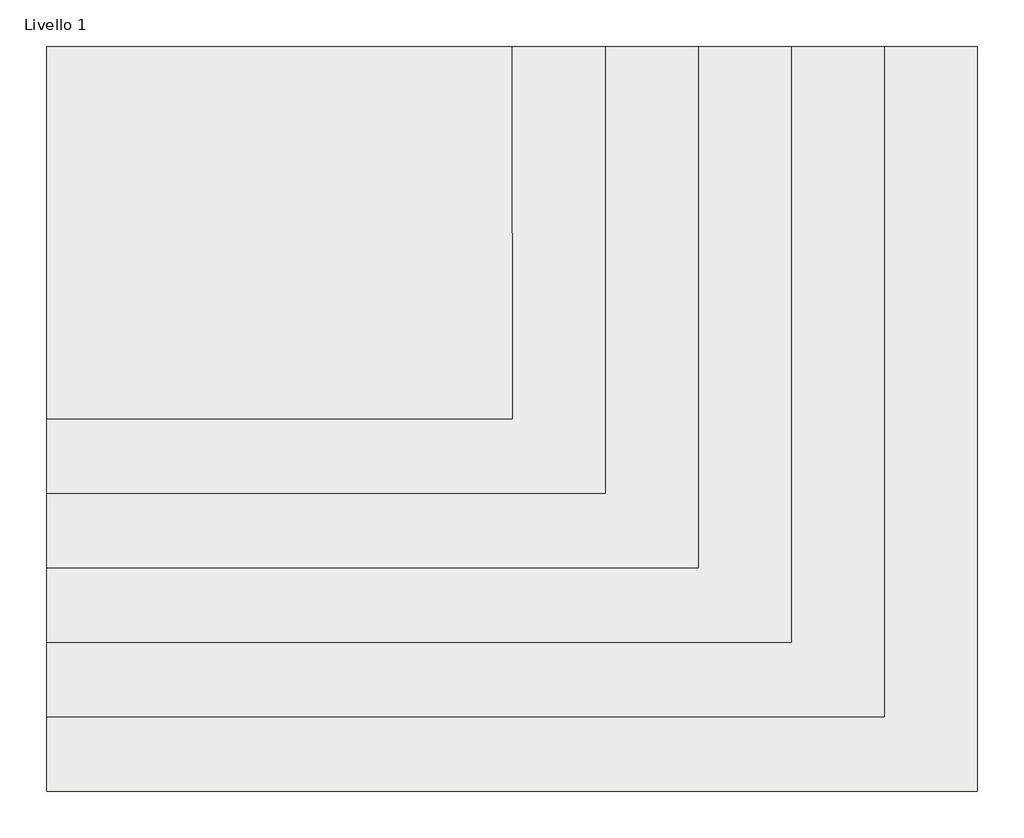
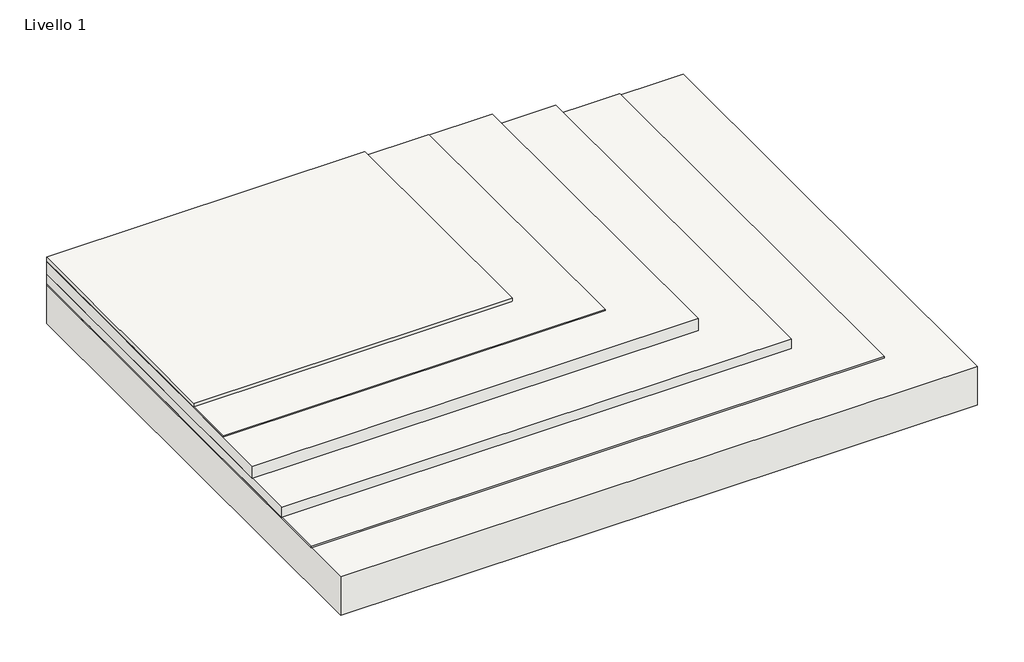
# One storey: 1 slab.
"""IFC4 building model written with IfcOpenShell, lengths in millimetres."""

from ifc_helpers import new_model, si_unit, frame, origin, place, context, project, spatial, polyline, outline, extrude, element, save

model = new_model("IFC4")

# Units and contexts
model_context = context("Model", 3, world=origin())
ifc_project = project(units=[si_unit("LENGTHUNIT", "METRE", prefix="MILLI")], contexts=[model_context])

# Site, building, storey
site = spatial("IfcSite", under=ifc_project)
building = spatial("IfcBuilding", under=site)
storey = spatial("IfcBuildingStorey", under=building, Name="Livello 1", Elevation=0.0)

# Slab
placement = place(None, origin())
element("IfcSlab", 1, ObjectType="MAPEI - Sistema para o assentamento de madeira sobre betonilha radiante", at=placement, inside=storey, context=model_context, shape_type="SweptSolid", body=[
    extrude(outline(polyline([(1457.7963918, 1184.9122843), (207.7963918, 1184.9122843), (207.7963918, 2184.9122843), (1457.7963918, 2184.9122843), (1457.7963918, 1184.9122843)])), frame((0.0, 0.0, -15.0), z_axis=(0.0, 0.0, 1.0), x_axis=(1.0, 0.0, 0.0)), (0.0, 0.0, 1.0), 15.0),
    extrude(outline(polyline([(1707.7963918, 984.9122843), (207.7963918, 984.9122843), (207.7963918, 2184.9122843), (1707.7963918, 2184.9122843), (1707.7963918, 984.9122843)])), frame((0.0, 0.0, -19.0), z_axis=(0.0, 0.0, 1.0), x_axis=(1.0, 0.0, 0.0)), (0.0, 0.0, 1.0), 4.0),
    extrude(outline(polyline([(1957.7963918, 784.9122843), (207.7963918, 784.9122843), (207.7963918, 2184.9122843), (1957.7963918, 2184.9122843), (1957.7963918, 784.9122843)])), frame((0.0, 0.0, -69.0), z_axis=(0.0, 0.0, 1.0), x_axis=(1.0, 0.0, 0.0)), (0.0, 0.0, 1.0), 50.0),
    extrude(outline(polyline([(2207.7963918, 584.9122843), (207.7963918, 584.9122843), (207.7963918, 2184.9122843), (2207.7963918, 2184.9122843), (2207.7963918, 584.9122843)])), frame((0.0, 0.0, -109.3), z_axis=(0.0, 0.0, 1.0), x_axis=(1.0, 0.0, 0.0)), (0.0, 0.0, 1.0), 40.3),
    extrude(outline(polyline([(2457.7963918, 384.9122843), (207.7963918, 384.9122843), (207.7963918, 2184.9122843), (2457.7963918, 2184.9122843), (2457.7963918, 384.9122843)])), frame((0.0, 0.0, -115.3), z_axis=(0.0, 0.0, 1.0), x_axis=(1.0, 0.0, 0.0)), (0.0, 0.0, 1.0), 6.0),
    extrude(outline(polyline([(2707.7963918, 184.9122843), (207.7963918, 184.9122843), (207.7963918, 2184.9122843), (2707.7963918, 2184.9122843), (2707.7963918, 184.9122843)])), frame((0.0, 0.0, -275.3), z_axis=(0.0, 0.0, 1.0), x_axis=(1.0, 0.0, 0.0)), (0.0, 0.0, 1.0), 160.0),
])

save(model, "model.ifc")
